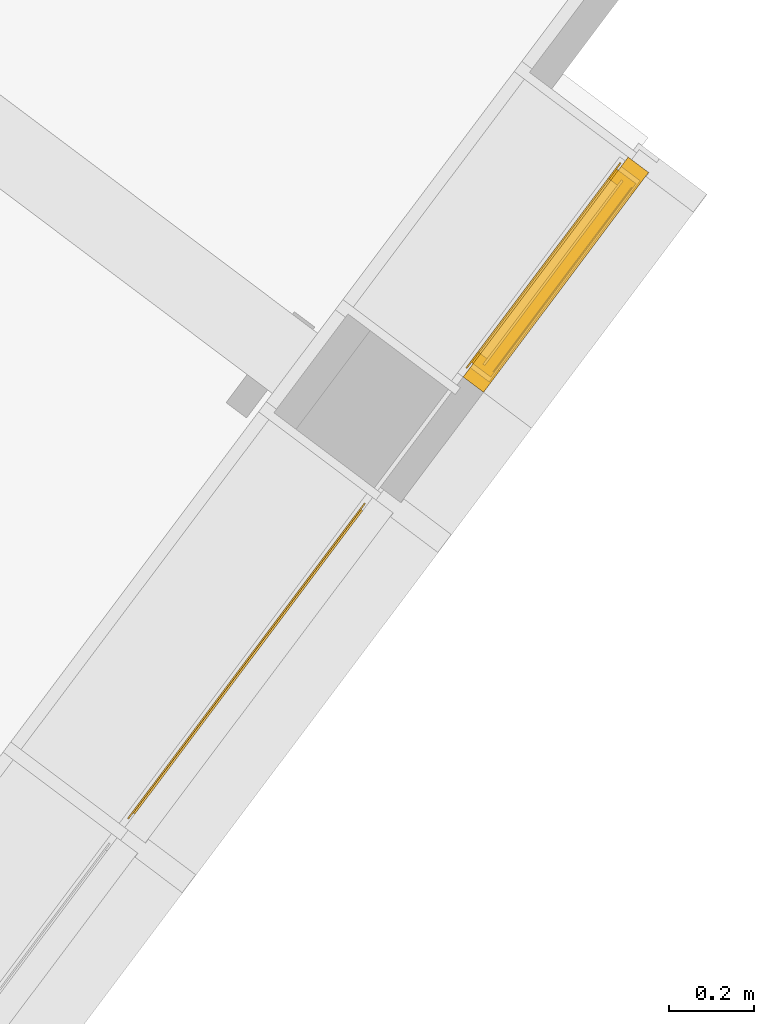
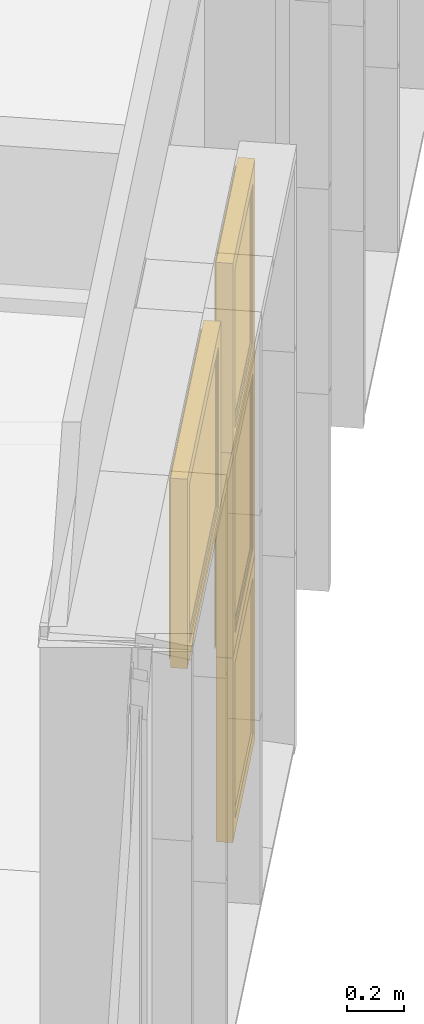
# One storey, part 182 of 243: 4 windows, 1 element without a shape of its own.
"""IFC2X3 building model written with IfcOpenShell, lengths in metres."""

from ifc_helpers import new_model, entity, si_unit, converted_unit, derived_unit, direction, frame, origin, place, context, subcontext, project, spatial, faceted_brep, source, transform, mapped, material, material_list, type_object, type_shapes, element, aggregate, save


model = new_model("IFC2X3")

# Units and contexts
model_context = context("Model", 3, precision=1e-05, world=origin(), true_north=direction((6.123031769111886e-17, 1.0)))
body_context = subcontext(model_context, "Body", "Model", "MODEL_VIEW")
ifc_project = project(units=[si_unit("LENGTHUNIT", "METRE"), si_unit("AREAUNIT", "SQUARE_METRE"), si_unit("VOLUMEUNIT", "CUBIC_METRE"), converted_unit("PLANEANGLEUNIT", "DEGREE", entity("IfcRatioMeasure", 0.017453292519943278), si_unit("PLANEANGLEUNIT", "RADIAN"), dimensions=[0, 0, 0, 0, 0, 0, 0]), si_unit("MASSUNIT", "GRAM", prefix="KILO"), derived_unit("MASSDENSITYUNIT", [(si_unit("MASSUNIT", "GRAM", prefix="KILO"), 1), (si_unit("LENGTHUNIT", "METRE"), -3)]), derived_unit("IONCONCENTRATIONUNIT", [(si_unit("MASSUNIT", "GRAM", prefix="KILO"), 1), (si_unit("LENGTHUNIT", "METRE"), -3)]), derived_unit("MOMENTOFINERTIAUNIT", [(si_unit("LENGTHUNIT", "METRE"), 4)]), si_unit("TIMEUNIT", "SECOND"), si_unit("FREQUENCYUNIT", "HERTZ"), si_unit("THERMODYNAMICTEMPERATUREUNIT", "DEGREE_CELSIUS"), derived_unit("THERMALTRANSMITTANCEUNIT", [(si_unit("MASSUNIT", "GRAM", prefix="KILO"), 1), (si_unit("THERMODYNAMICTEMPERATUREUNIT", "KELVIN"), -1), (si_unit("TIMEUNIT", "SECOND"), -3)]), derived_unit("THERMALCONDUCTANCEUNIT", [(si_unit("MASSUNIT", "GRAM", prefix="KILO"), 1), (si_unit("THERMODYNAMICTEMPERATUREUNIT", "KELVIN"), -1), (si_unit("TIMEUNIT", "SECOND"), -3), (si_unit("LENGTHUNIT", "METRE"), 1)]), derived_unit("VOLUMETRICFLOWRATEUNIT", [(si_unit("LENGTHUNIT", "METRE"), 3), (si_unit("TIMEUNIT", "SECOND"), -1)]), derived_unit("MASSFLOWRATEUNIT", [(si_unit("MASSUNIT", "GRAM", prefix="KILO"), 1), (si_unit("TIMEUNIT", "SECOND"), -1)]), derived_unit("ROTATIONALFREQUENCYUNIT", [(si_unit("TIMEUNIT", "SECOND"), -1)]), si_unit("ELECTRICCURRENTUNIT", "AMPERE"), si_unit("ELECTRICVOLTAGEUNIT", "VOLT"), si_unit("POWERUNIT", "WATT"), si_unit("FORCEUNIT", "NEWTON", prefix="KILO"), si_unit("ILLUMINANCEUNIT", "LUX"), si_unit("LUMINOUSFLUXUNIT", "LUMEN"), si_unit("LUMINOUSINTENSITYUNIT", "CANDELA"), derived_unit("USERDEFINED", [(si_unit("MASSUNIT", "GRAM", prefix="KILO"), -1), (si_unit("LENGTHUNIT", "METRE"), -2), (si_unit("TIMEUNIT", "SECOND"), 3), (si_unit("LUMINOUSFLUXUNIT", "LUMEN"), 1)]), derived_unit("USERDEFINED", [(si_unit("MASSUNIT", "GRAM", prefix="KILO"), 1), (si_unit("TIMEUNIT", "SECOND"), -3), (si_unit("LENGTHUNIT", "METRE"), 3), (si_unit("ELECTRICCURRENTUNIT", "AMPERE"), -2)]), derived_unit("SOUNDPOWERUNIT", [(si_unit("MASSUNIT", "GRAM", prefix="KILO"), 1), (si_unit("TIMEUNIT", "SECOND"), -3), (si_unit("LENGTHUNIT", "METRE"), 2)]), derived_unit("SOUNDPRESSUREUNIT", [(si_unit("MASSUNIT", "GRAM", prefix="KILO"), 1), (si_unit("LENGTHUNIT", "METRE"), -1), (si_unit("TIMEUNIT", "SECOND"), -2)]), derived_unit("LINEARVELOCITYUNIT", [(si_unit("LENGTHUNIT", "METRE"), 1), (si_unit("TIMEUNIT", "SECOND"), -1)]), si_unit("PRESSUREUNIT", "PASCAL"), derived_unit("USERDEFINED", [(si_unit("MASSUNIT", "GRAM", prefix="KILO"), 1), (si_unit("LENGTHUNIT", "METRE"), -2), (si_unit("TIMEUNIT", "SECOND"), -2)]), derived_unit("LINEARFORCEUNIT", [(si_unit("MASSUNIT", "GRAM", prefix="KILO"), 1), (si_unit("TIMEUNIT", "SECOND"), -2)]), derived_unit("PLANARFORCEUNIT", [(si_unit("MASSUNIT", "GRAM", prefix="KILO"), 1), (si_unit("LENGTHUNIT", "METRE"), -1), (si_unit("TIMEUNIT", "SECOND"), -2)]), derived_unit("SPECIFICHEATCAPACITYUNIT", [(si_unit("THERMODYNAMICTEMPERATUREUNIT", "KELVIN"), -1), (si_unit("LENGTHUNIT", "METRE"), 2), (si_unit("TIMEUNIT", "SECOND"), -2)]), derived_unit("HEATINGVALUEUNIT", [(si_unit("LENGTHUNIT", "METRE"), 2), (si_unit("TIMEUNIT", "SECOND"), -2)]), derived_unit("VAPORPERMEABILITYUNIT", [(si_unit("LENGTHUNIT", "METRE"), -1), (si_unit("TIMEUNIT", "SECOND"), 1)]), derived_unit("DYNAMICVISCOSITYUNIT", [(si_unit("MASSUNIT", "GRAM", prefix="KILO"), 1), (si_unit("TIMEUNIT", "SECOND"), -1), (si_unit("LENGTHUNIT", "METRE"), -1)]), derived_unit("THERMALEXPANSIONCOEFFICIENTUNIT", [(si_unit("THERMODYNAMICTEMPERATUREUNIT", "KELVIN"), -1)]), derived_unit("MODULUSOFELASTICITYUNIT", [(si_unit("MASSUNIT", "GRAM", prefix="KILO"), 1), (si_unit("LENGTHUNIT", "METRE"), -1), (si_unit("TIMEUNIT", "SECOND"), -2)]), derived_unit("ISOTHERMALMOISTURECAPACITYUNIT", [(si_unit("LENGTHUNIT", "METRE"), 3), (si_unit("MASSUNIT", "GRAM", prefix="KILO"), -1)]), derived_unit("MOISTUREDIFFUSIVITYUNIT", [(si_unit("TIMEUNIT", "SECOND"), -1), (si_unit("LENGTHUNIT", "METRE"), 2)])], contexts=[model_context])

# Site, building, storey
site_placement = place(None, frame((0.0, 0.0, 235.0), z_axis=(0.0, 0.0, 1.0), x_axis=(-0.7996477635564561, 0.6004693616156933, 0.0)))
site = spatial("IfcSite", under=ifc_project, at=site_placement, Name="Default", CompositionType="ELEMENT")
building_placement = place(site_placement, origin())
building = spatial("IfcBuilding", under=site, at=building_placement, CompositionType="ELEMENT")
storey_placement = place(building_placement, origin())
storey = spatial("IfcBuildingStorey", under=building, at=storey_placement, Name="P0- Escola", CompositionType="ELEMENT", Elevation=0.0)

# Curtain wall, windows
curtain_wall_type = type_object("IfcCurtainWallType", Name="Muro cortina:MC- EXT- MC2", PredefinedType="NOTDEFINED")
curtain_wall_placement = place(storey_placement, origin())
curtain_wall = element("IfcCurtainWall", 1, at=curtain_wall_placement, inside=storey, type_object=curtain_wall_type, Name="Muro cortina:MC- EXT- MC2", ObjectType="Muro cortina:MC- EXT- MC2")
ifc_material_1 = material(Name="_Vidre")
ifc_material_2 = material(Name="_Alumini- T1- Perfil")
ifc_material_list = material_list([ifc_material_1, ifc_material_2])
window_style_1 = type_object("IfcWindowStyle", Name="MC- Alu- Conjunt vidre fix- 62x60 cm:MC- Alu- Conjunt vidre fix- 62x60 cm", ConstructionType="NOTDEFINED", OperationType="NOTDEFINED", ParameterTakesPrecedence=False, Sizeable=False, material=ifc_material_list)
shared_shape_1 = source(origin(), body_context, "Body", "Brep", [
    faceted_brep([(0.2741301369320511, -0.007600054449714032, 0.048806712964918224), (0.2741301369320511, -0.03160022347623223, 0.048806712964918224), (-0.27413013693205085, -0.03160022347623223, 0.048806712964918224), (-0.27413013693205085, -0.007600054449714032, 0.048806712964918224), (0.2741301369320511, -0.007600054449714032, 0.7387000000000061), (-0.27413013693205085, -0.007600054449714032, 0.7387000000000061), (-0.27413013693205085, -0.03160022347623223, 0.7387000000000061), (0.2741301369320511, -0.03160022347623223, 0.7387000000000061)], [[[0, 1, 2, 3]], [[4, 0, 3, 5]], [[5, 3, 2, 6]], [[6, 2, 1, 7]], [[7, 1, 0, 4]], [[4, 5, 6, 7]]]),
    faceted_brep([(0.3229368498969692, -0.05999999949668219, 0.7877000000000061), (0.3229368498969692, -0.05999999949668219, 0.0), (0.3229368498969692, 0.0, 0.0), (0.3229368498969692, 0.0, 0.7877000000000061), (-0.3229368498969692, 0.0, 0.7877000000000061), (-0.3229368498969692, 0.0, 0.0), (0.260130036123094, 0.0, 0.724893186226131), (-0.260130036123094, 0.0, 0.7248931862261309), (-0.2601300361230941, 0.0, 0.06280681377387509), (0.260130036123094, 0.0, 0.06280681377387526), (-0.3229368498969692, -0.05999999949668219, 0.0), (-0.3229368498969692, -0.05999999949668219, 0.7877000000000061), (-0.2601328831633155, -0.05999999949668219, 0.7248960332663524), (0.2601328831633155, -0.05999999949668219, 0.7248960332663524), (0.2601328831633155, -0.05999999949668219, 0.0628039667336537), (-0.2601328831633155, -0.05999999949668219, 0.0628039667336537), (0.2601328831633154, -0.03160022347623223, 0.7248960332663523), (0.2601328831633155, -0.03160022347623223, 0.0628039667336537), (-0.2601328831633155, -0.03160022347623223, 0.06280396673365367), (-0.2601328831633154, -0.03160022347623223, 0.7248960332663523), (-0.274130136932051, -0.03160022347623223, 0.7388932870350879), (0.274130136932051, -0.03160022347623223, 0.7388932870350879), (0.274130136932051, -0.03160022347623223, 0.048806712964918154), (-0.274130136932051, -0.03160022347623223, 0.04880671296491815), (0.274130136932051, -0.007600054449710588, 0.7388932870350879), (0.274130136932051, -0.007600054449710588, 0.04880671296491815), (-0.274130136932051, -0.007600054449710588, 0.048806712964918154), (-0.274130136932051, -0.007600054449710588, 0.7388932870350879), (-0.26013003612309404, -0.007600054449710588, 0.724893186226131), (0.26013003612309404, -0.007600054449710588, 0.724893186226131), (0.26013003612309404, -0.007600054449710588, 0.06280681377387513), (-0.26013003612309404, -0.007600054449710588, 0.06280681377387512)], [[[0, 1, 2, 3]], [[4, 3, 2, 5], [6, 7, 8, 9]], [[1, 10, 5, 2]], [[0, 11, 10, 1], [12, 13, 14, 15]], [[16, 17, 14, 13]], [[17, 18, 15, 14]], [[16, 19, 18, 17], [20, 21, 22, 23]], [[24, 25, 22, 21]], [[25, 26, 23, 22]], [[24, 27, 26, 25], [28, 29, 30, 31]], [[6, 9, 30, 29]], [[9, 8, 31, 30]], [[10, 11, 4, 5]], [[18, 19, 12, 15]], [[26, 27, 20, 23]], [[8, 7, 28, 31]], [[11, 0, 3, 4]], [[19, 16, 13, 12]], [[27, 24, 21, 20]], [[7, 6, 29, 28]]], outer=[[True], [True, False], [True], [True, False], [True], [True], [False, True], [True], [True], [True, False], [True], [True], [True], [True], [True], [True], [True], [True], [True], [True]]),
])
type_shapes(window_style_1, [shared_shape_1])
window_1_placement = place(curtain_wall_placement, frame((66.44514768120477, -24.07725490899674, 0.03229999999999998), z_axis=(0.0, 0.0, 1.0), x_axis=(0.0, 1.0, 0.0)))
window_1 = element("IfcWindow", 2, at=window_1_placement, type_object=window_style_1, material=ifc_material_list, Name="MC- Alu- Conjunt vidre fix- 62x60 cm:MC- Alu- Conjunt vidre fix- 62x60 cm", ObjectType="MC- Alu- Conjunt vidre fix- 62x60 cm:MC- Alu- Conjunt vidre fix- 62x60 cm", OverallHeight=0.7877000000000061, OverallWidth=0.6458736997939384, context=body_context, shape_type="MappedRepresentation", body=[
    mapped(shared_shape_1, transform((0.0, 0.0, 0.0), scale=1.0)),
])
window_style_2 = type_object("IfcWindowStyle", Name="MC- Alu- Conjunt finestra basculant- 68x68 cm:MC- Alu- Conjunt finestra basculant- 68x68 cm", ConstructionType="NOTDEFINED", OperationType="NOTDEFINED", ParameterTakesPrecedence=False, Sizeable=False, material=ifc_material_list)
shared_shape_2 = source(origin(), body_context, "Body", "Brep", [
    faceted_brep([(0.2708485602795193, -0.03559830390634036, 0.051999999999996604), (-0.27084856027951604, -0.03559830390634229, 0.051999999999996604), (-0.2708485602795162, -0.011598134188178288, 0.051999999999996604), (0.27084856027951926, -0.011598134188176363, 0.051999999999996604), (0.2708485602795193, -0.03559830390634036, 0.82280278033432), (0.27084856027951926, -0.011598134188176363, 0.82280278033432), (-0.27084856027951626, -0.011598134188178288, 0.82280278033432), (-0.27084856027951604, -0.03559830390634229, 0.82280278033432)], [[[0, 1, 2, 3]], [[4, 0, 3, 5]], [[5, 3, 2, 6]], [[6, 2, 1, 7]], [[7, 1, 0, 4]], [[4, 5, 6, 7]]]),
    faceted_brep([(-0.2551477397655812, -0.009998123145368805, 0.8071019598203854), (-0.2551477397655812, -0.009998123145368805, 0.06789804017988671), (-0.2551477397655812, -0.007998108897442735, 0.06789804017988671), (-0.2551477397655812, -0.007998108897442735, 0.8071019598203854), (-0.284045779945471, -0.007998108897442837, 0.8360000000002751), (0.28404577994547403, -0.007998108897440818, 0.8360000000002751), (0.2840457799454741, -0.007998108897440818, 0.038999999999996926), (-0.284045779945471, -0.007998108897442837, 0.03899999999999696), (0.25514773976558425, -0.007998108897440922, 0.8071019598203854), (0.25514773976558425, -0.007998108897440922, 0.06789804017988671), (0.25514773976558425, -0.009998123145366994, 0.06789804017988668), (0.25514773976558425, -0.009998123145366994, 0.8071019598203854), (0.2708485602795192, -0.009998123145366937, 0.8228027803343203), (-0.27084856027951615, -0.00999812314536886, 0.8228027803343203), (-0.27084856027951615, -0.00999812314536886, 0.05219721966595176), (0.2708485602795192, -0.009998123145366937, 0.052197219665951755), (-0.27084856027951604, -0.04079986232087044, 0.8228027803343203), (-0.27084856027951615, -0.04079986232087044, 0.052197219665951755), (0.27084856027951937, -0.04079986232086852, 0.05219721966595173), (0.27084856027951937, -0.04079986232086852, 0.8228027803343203), (0.25514773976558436, -0.040799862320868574, 0.8071019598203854), (-0.2551477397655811, -0.040799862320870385, 0.8071019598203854), (-0.2551477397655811, -0.040799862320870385, 0.06789804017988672), (0.25514773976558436, -0.040799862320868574, 0.06789804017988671), (-0.255147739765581, -0.06800005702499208, 0.8071019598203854), (-0.255147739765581, -0.06800005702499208, 0.06789804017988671), (0.2551477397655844, -0.06800005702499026, 0.06789804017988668), (0.25514773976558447, -0.06800005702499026, 0.8071019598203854), (0.3015497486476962, -0.0680000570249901, 0.853503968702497), (-0.3015497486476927, -0.06800005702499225, 0.853503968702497), (-0.3015497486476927, -0.06800005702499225, 0.021496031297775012), (0.3015497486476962, -0.0680000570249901, 0.021496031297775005), (-0.3015497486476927, -0.06450003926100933, 0.853503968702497), (-0.3015497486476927, -0.06450003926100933, 0.021496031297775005), (0.3015497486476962, -0.0645000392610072, 0.021496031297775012), (0.3015497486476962, -0.06450003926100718, 0.853503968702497), (0.2840457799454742, -0.06450003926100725, 0.8360000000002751), (-0.28404577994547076, -0.06450003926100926, 0.8360000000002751), (-0.28404577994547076, -0.06450003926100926, 0.03899999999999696), (0.2840457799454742, -0.06450003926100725, 0.038999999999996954)], [[[0, 1, 2, 3]], [[4, 5, 6, 7], [8, 3, 2, 9]], [[1, 10, 9, 2]], [[0, 11, 10, 1], [12, 13, 14, 15]], [[16, 17, 14, 13]], [[17, 18, 15, 14]], [[16, 19, 18, 17], [20, 21, 22, 23]], [[24, 25, 22, 21]], [[25, 26, 23, 22]], [[24, 27, 26, 25], [28, 29, 30, 31]], [[32, 33, 30, 29]], [[33, 34, 31, 30]], [[32, 35, 34, 33], [36, 37, 38, 39]], [[4, 7, 38, 37]], [[7, 6, 39, 38]], [[10, 11, 8, 9]], [[18, 19, 12, 15]], [[26, 27, 20, 23]], [[34, 35, 28, 31]], [[6, 5, 36, 39]], [[11, 0, 3, 8]], [[19, 16, 13, 12]], [[27, 24, 21, 20]], [[35, 32, 29, 28]], [[5, 4, 37, 36]]], outer=[[True], [True, False], [True], [False, True], [True], [True], [True, False], [True], [True], [False, True], [True], [True], [True, False], [True], [True], [True], [True], [True], [True], [True], [True], [True], [True], [True], [True]]),
    faceted_brep([(0.26013003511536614, 0.0, 0.8121931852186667), (0.26013003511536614, 0.0, 0.06280681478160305), (0.26013003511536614, -0.0040000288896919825, 0.06280681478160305), (0.26013003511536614, -0.0040000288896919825, 0.8121931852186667), (-0.26013003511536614, -0.0040000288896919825, 0.8121931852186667), (-0.26013003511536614, -0.0040000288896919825, 0.06280681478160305), (0.295536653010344, -0.0040000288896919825, 0.8475998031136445), (-0.295536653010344, -0.0040000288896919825, 0.8475998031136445), (-0.295536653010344, -0.0040000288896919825, 0.027400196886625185), (0.295536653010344, -0.0040000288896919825, 0.02740019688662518), (-0.26013003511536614, 0.0, 0.06280681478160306), (-0.26013003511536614, 0.0, 0.8121931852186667), (-0.322936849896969, 0.0, 0.8750000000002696), (0.322936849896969, 0.0, 0.8750000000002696), (0.322936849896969, 0.0, 0.0), (-0.322936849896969, 0.0, 0.0), (0.322936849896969, -0.05999999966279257, 0.8750000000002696), (0.322936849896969, -0.05999999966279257, 0.0), (-0.322936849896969, -0.05999999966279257, 0.0), (-0.322936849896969, -0.05999999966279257, 0.8750000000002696), (-0.295536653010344, -0.05999999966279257, 0.8475998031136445), (0.295536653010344, -0.05999999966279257, 0.8475998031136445), (0.295536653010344, -0.05999999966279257, 0.027400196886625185), (-0.295536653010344, -0.05999999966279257, 0.02740019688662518)], [[[0, 1, 2, 3]], [[4, 3, 2, 5], [6, 7, 8, 9]], [[1, 10, 5, 2]], [[0, 11, 10, 1], [12, 13, 14, 15]], [[16, 17, 14, 13]], [[17, 18, 15, 14]], [[16, 19, 18, 17], [20, 21, 22, 23]], [[6, 9, 22, 21]], [[9, 8, 23, 22]], [[10, 11, 4, 5]], [[18, 19, 12, 15]], [[8, 7, 20, 23]], [[11, 0, 3, 4]], [[19, 16, 13, 12]], [[7, 6, 21, 20]]], outer=[[True], [False, True], [True], [False, True], [True], [True], [True, False], [True], [True], [True], [True], [True], [True], [True], [True]]),
])
type_shapes(window_style_2, [shared_shape_2])
window_2_placement = place(curtain_wall_placement, frame((66.44514768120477, -24.07725490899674, 0.8200000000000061), z_axis=(0.0, 0.0, 1.0), x_axis=(0.0, 1.0, 0.0)))
window_2 = element("IfcWindow", 3, at=window_2_placement, type_object=window_style_2, material=ifc_material_list, Name="MC- Alu- Conjunt finestra basculant- 68x68 cm:MC- Alu- Conjunt finestra basculant- 68x68 cm", ObjectType="MC- Alu- Conjunt finestra basculant- 68x68 cm:MC- Alu- Conjunt finestra basculant- 68x68 cm", OverallHeight=0.8750000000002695, OverallWidth=0.6458736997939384, context=body_context, shape_type="MappedRepresentation", body=[
    mapped(shared_shape_2, transform((0.0, 0.0, 0.0), scale=1.0)),
])
window_style_3 = type_object("IfcWindowStyle", Name="MC- Alu- Conjunt finestra basculant- 68x68 cm:MC- Alu- Conjunt finestra basculant- 68x68 cm", ConstructionType="NOTDEFINED", OperationType="NOTDEFINED", ParameterTakesPrecedence=False, Sizeable=False, material=ifc_material_list)
shared_shape_3 = source(origin(), body_context, "Body", "Brep", [
    faceted_brep([(0.432911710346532, -0.03559830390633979, 0.051999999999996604), (-0.43291171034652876, -0.03559830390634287, 0.051999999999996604), (-0.4329117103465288, -0.011598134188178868, 0.051999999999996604), (0.43291171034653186, -0.011598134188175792, 0.051999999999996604), (0.432911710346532, -0.035598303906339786, 0.7565527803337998), (0.43291171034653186, -0.011598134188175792, 0.7565527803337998), (-0.43291171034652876, -0.011598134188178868, 0.7565527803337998), (-0.43291171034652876, -0.03559830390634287, 0.7565527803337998)], [[[0, 1, 2, 3]], [[4, 0, 3, 5]], [[5, 3, 2, 6]], [[6, 2, 1, 7]], [[7, 1, 0, 4]], [[4, 5, 6, 7]]]),
    faceted_brep([(-0.41721088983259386, -0.009998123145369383, 0.7408519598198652), (-0.41721088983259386, -0.00999812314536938, 0.06789804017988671), (-0.41721088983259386, -0.007998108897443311, 0.06789804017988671), (-0.41721088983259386, -0.007998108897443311, 0.7408519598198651), (-0.4461089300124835, -0.007998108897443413, 0.7697499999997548), (0.44610893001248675, -0.007998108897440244, 0.7697499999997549), (0.4461089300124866, -0.007998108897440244, 0.03899999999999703), (-0.44610893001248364, -0.007998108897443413, 0.03899999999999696), (0.41721088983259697, -0.007998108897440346, 0.7408519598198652), (0.41721088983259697, -0.007998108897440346, 0.06789804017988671), (0.41721088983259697, -0.009998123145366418, 0.06789804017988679), (0.41721088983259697, -0.009998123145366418, 0.7408519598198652), (0.4329117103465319, -0.00999812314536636, 0.7565527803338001), (-0.4329117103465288, -0.009998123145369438, 0.7565527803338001), (-0.4329117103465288, -0.009998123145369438, 0.05219721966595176), (0.4329117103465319, -0.00999812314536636, 0.052197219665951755), (-0.4329117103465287, -0.04079986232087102, 0.7565527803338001), (-0.4329117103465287, -0.04079986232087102, 0.052197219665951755), (0.4329117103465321, -0.04079986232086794, 0.05219721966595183), (0.4329117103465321, -0.04079986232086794, 0.7565527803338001), (0.41721088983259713, -0.040799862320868, 0.7408519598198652), (-0.41721088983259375, -0.04079986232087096, 0.7408519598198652), (-0.41721088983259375, -0.04079986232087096, 0.06789804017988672), (0.41721088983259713, -0.040799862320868, 0.06789804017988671), (-0.4172108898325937, -0.06800005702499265, 0.7408519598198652), (-0.4172108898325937, -0.06800005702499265, 0.06789804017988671), (0.41721088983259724, -0.0680000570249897, 0.06789804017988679), (0.4172108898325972, -0.0680000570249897, 0.7408519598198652), (0.4636128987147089, -0.06800005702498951, 0.7872539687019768), (-0.46361289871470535, -0.06800005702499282, 0.7872539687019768), (-0.46361289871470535, -0.06800005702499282, 0.021496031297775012), (0.4636128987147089, -0.06800005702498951, 0.021496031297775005), (-0.46361289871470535, -0.0645000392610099, 0.7872539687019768), (-0.46361289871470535, -0.06450003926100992, 0.021496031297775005), (0.4636128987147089, -0.06450003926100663, 0.02149603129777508), (0.4636128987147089, -0.06450003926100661, 0.7872539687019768), (0.4461089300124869, -0.06450003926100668, 0.7697499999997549), (-0.4461089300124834, -0.06450003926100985, 0.7697499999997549), (-0.4461089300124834, -0.06450003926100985, 0.03899999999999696), (0.4461089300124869, -0.06450003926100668, 0.038999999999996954)], [[[0, 1, 2, 3]], [[4, 5, 6, 7], [8, 3, 2, 9]], [[1, 10, 9, 2]], [[0, 11, 10, 1], [12, 13, 14, 15]], [[16, 17, 14, 13]], [[17, 18, 15, 14]], [[16, 19, 18, 17], [20, 21, 22, 23]], [[24, 25, 22, 21]], [[25, 26, 23, 22]], [[24, 27, 26, 25], [28, 29, 30, 31]], [[32, 33, 30, 29]], [[33, 34, 31, 30]], [[32, 35, 34, 33], [36, 37, 38, 39]], [[4, 7, 38, 37]], [[7, 6, 39, 38]], [[10, 11, 8, 9]], [[18, 19, 12, 15]], [[26, 27, 20, 23]], [[34, 35, 28, 31]], [[6, 5, 36, 39]], [[11, 0, 3, 8]], [[19, 16, 13, 12]], [[27, 24, 21, 20]], [[35, 32, 29, 28]], [[5, 4, 37, 36]]], outer=[[True], [True, False], [True], [False, True], [True], [True], [True, False], [True], [True], [False, True], [True], [True], [True, False], [True], [True], [True], [True], [True], [True], [True], [True], [True], [True], [True], [True]]),
    faceted_brep([(0.4221931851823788, 0.0, 0.7459431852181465), (0.4221931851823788, 0.0, 0.06280681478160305), (0.4221931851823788, -0.0040000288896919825, 0.06280681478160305), (0.4221931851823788, -0.0040000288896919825, 0.7459431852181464), (-0.4221931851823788, -0.0040000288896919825, 0.7459431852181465), (-0.4221931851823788, -0.0040000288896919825, 0.06280681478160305), (0.4575998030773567, -0.0040000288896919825, 0.7813498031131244), (-0.4575998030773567, -0.0040000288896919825, 0.7813498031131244), (-0.4575998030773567, -0.0040000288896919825, 0.027400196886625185), (0.4575998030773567, -0.0040000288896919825, 0.02740019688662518), (-0.4221931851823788, 0.0, 0.06280681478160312), (-0.4221931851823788, 0.0, 0.7459431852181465), (-0.48499999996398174, 0.0, 0.8087499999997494), (0.48499999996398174, 0.0, 0.8087499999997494), (0.48499999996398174, 0.0, 0.0), (-0.48499999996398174, 0.0, 0.0), (0.48499999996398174, -0.05999999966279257, 0.8087499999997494), (0.48499999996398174, -0.05999999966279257, 0.0), (-0.48499999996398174, -0.05999999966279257, 0.0), (-0.48499999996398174, -0.05999999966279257, 0.8087499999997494), (-0.4575998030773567, -0.05999999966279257, 0.7813498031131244), (0.4575998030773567, -0.05999999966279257, 0.7813498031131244), (0.4575998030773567, -0.05999999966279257, 0.027400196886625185), (-0.4575998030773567, -0.05999999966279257, 0.02740019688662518)], [[[0, 1, 2, 3]], [[4, 3, 2, 5], [6, 7, 8, 9]], [[1, 10, 5, 2]], [[0, 11, 10, 1], [12, 13, 14, 15]], [[16, 17, 14, 13]], [[17, 18, 15, 14]], [[16, 19, 18, 17], [20, 21, 22, 23]], [[6, 9, 22, 21]], [[9, 8, 23, 22]], [[10, 11, 4, 5]], [[18, 19, 12, 15]], [[8, 7, 20, 23]], [[11, 0, 3, 4]], [[19, 16, 13, 12]], [[7, 6, 21, 20]]], outer=[[True], [False, True], [True], [False, True], [True], [True], [True, False], [True], [True], [True], [True], [True], [True], [True], [True]]),
])
type_shapes(window_style_3, [shared_shape_3])
window_3_placement = place(curtain_wall_placement, frame((66.44514768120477, -22.915191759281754, 1.6950000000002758), z_axis=(0.0, 0.0, 1.0), x_axis=(0.0, 1.0, 0.0)))
window_3 = element("IfcWindow", 4, at=window_3_placement, type_object=window_style_3, material=ifc_material_list, Name="MC- Alu- Conjunt finestra basculant- 68x68 cm:MC- Alu- Conjunt finestra basculant- 68x68 cm", ObjectType="MC- Alu- Conjunt finestra basculant- 68x68 cm:MC- Alu- Conjunt finestra basculant- 68x68 cm", OverallHeight=0.8087499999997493, OverallWidth=0.9699999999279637, context=body_context, shape_type="MappedRepresentation", body=[
    mapped(shared_shape_3, transform((0.0, 0.0, 0.0), scale=1.0)),
])
window_style_4 = type_object("IfcWindowStyle", Name="MC- Alu- Conjunt finestra basculant- 68x68 cm:MC- Alu- Conjunt finestra basculant- 68x68 cm", ConstructionType="NOTDEFINED", OperationType="NOTDEFINED", ParameterTakesPrecedence=False, Sizeable=False, material=ifc_material_list)
shared_shape_4 = source(origin(), body_context, "Body", "Brep", [
    faceted_brep([(0.2708485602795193, -0.03559830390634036, 0.051999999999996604), (-0.27084856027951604, -0.03559830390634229, 0.051999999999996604), (-0.27084856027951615, -0.011598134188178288, 0.051999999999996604), (0.27084856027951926, -0.011598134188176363, 0.051999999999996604), (0.2708485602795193, -0.03559830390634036, 0.7565527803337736), (0.27084856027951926, -0.011598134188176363, 0.7565527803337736), (-0.27084856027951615, -0.011598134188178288, 0.7565527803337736), (-0.27084856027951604, -0.03559830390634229, 0.7565527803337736)], [[[0, 1, 2, 3]], [[4, 0, 3, 5]], [[5, 3, 2, 6]], [[6, 2, 1, 7]], [[7, 1, 0, 4]], [[4, 5, 6, 7]]]),
    faceted_brep([(-0.2551477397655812, -0.009998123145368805, 0.7408519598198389), (-0.2551477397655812, -0.009998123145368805, 0.06789804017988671), (-0.2551477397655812, -0.007998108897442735, 0.06789804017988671), (-0.2551477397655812, -0.007998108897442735, 0.7408519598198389), (-0.284045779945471, -0.007998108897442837, 0.7697499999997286), (0.28404577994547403, -0.007998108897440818, 0.7697499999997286), (0.2840457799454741, -0.007998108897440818, 0.038999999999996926), (-0.284045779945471, -0.007998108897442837, 0.03899999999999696), (0.25514773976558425, -0.007998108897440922, 0.7408519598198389), (0.25514773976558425, -0.007998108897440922, 0.06789804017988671), (0.25514773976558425, -0.009998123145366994, 0.06789804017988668), (0.25514773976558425, -0.009998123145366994, 0.7408519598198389), (0.2708485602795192, -0.009998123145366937, 0.7565527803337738), (-0.27084856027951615, -0.00999812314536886, 0.7565527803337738), (-0.27084856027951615, -0.00999812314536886, 0.05219721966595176), (0.2708485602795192, -0.009998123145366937, 0.052197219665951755), (-0.27084856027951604, -0.04079986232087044, 0.7565527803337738), (-0.27084856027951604, -0.04079986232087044, 0.052197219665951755), (0.27084856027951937, -0.04079986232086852, 0.05219721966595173), (0.2708485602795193, -0.04079986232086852, 0.7565527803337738), (0.25514773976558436, -0.040799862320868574, 0.7408519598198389), (-0.2551477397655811, -0.040799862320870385, 0.7408519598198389), (-0.2551477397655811, -0.040799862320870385, 0.06789804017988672), (0.25514773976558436, -0.040799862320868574, 0.06789804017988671), (-0.255147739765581, -0.06800005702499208, 0.7408519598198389), (-0.255147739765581, -0.06800005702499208, 0.06789804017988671), (0.2551477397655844, -0.06800005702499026, 0.06789804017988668), (0.25514773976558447, -0.06800005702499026, 0.7408519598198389), (0.3015497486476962, -0.0680000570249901, 0.7872539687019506), (-0.3015497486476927, -0.06800005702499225, 0.7872539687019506), (-0.3015497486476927, -0.06800005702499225, 0.021496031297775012), (0.3015497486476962, -0.0680000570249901, 0.021496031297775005), (-0.3015497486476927, -0.06450003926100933, 0.7872539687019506), (-0.3015497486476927, -0.06450003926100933, 0.021496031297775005), (0.3015497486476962, -0.0645000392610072, 0.021496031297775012), (0.3015497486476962, -0.06450003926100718, 0.7872539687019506), (0.2840457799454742, -0.06450003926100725, 0.7697499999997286), (-0.28404577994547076, -0.06450003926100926, 0.7697499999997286), (-0.28404577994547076, -0.06450003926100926, 0.03899999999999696), (0.2840457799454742, -0.06450003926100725, 0.038999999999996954)], [[[0, 1, 2, 3]], [[4, 5, 6, 7], [8, 3, 2, 9]], [[1, 10, 9, 2]], [[0, 11, 10, 1], [12, 13, 14, 15]], [[16, 17, 14, 13]], [[17, 18, 15, 14]], [[16, 19, 18, 17], [20, 21, 22, 23]], [[24, 25, 22, 21]], [[25, 26, 23, 22]], [[24, 27, 26, 25], [28, 29, 30, 31]], [[32, 33, 30, 29]], [[33, 34, 31, 30]], [[32, 35, 34, 33], [36, 37, 38, 39]], [[4, 7, 38, 37]], [[7, 6, 39, 38]], [[10, 11, 8, 9]], [[18, 19, 12, 15]], [[26, 27, 20, 23]], [[34, 35, 28, 31]], [[6, 5, 36, 39]], [[11, 0, 3, 8]], [[19, 16, 13, 12]], [[27, 24, 21, 20]], [[35, 32, 29, 28]], [[5, 4, 37, 36]]], outer=[[True], [True, False], [True], [False, True], [True], [True], [True, False], [True], [True], [False, True], [True], [True], [True, False], [True], [True], [True], [True], [True], [True], [True], [True], [True], [True], [True], [True]]),
    faceted_brep([(0.26013003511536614, 0.0, 0.7459431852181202), (0.2601300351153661, 0.0, 0.06280681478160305), (0.2601300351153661, -0.0040000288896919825, 0.06280681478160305), (0.26013003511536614, -0.0040000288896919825, 0.7459431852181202), (-0.26013003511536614, -0.0040000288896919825, 0.7459431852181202), (-0.26013003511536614, -0.0040000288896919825, 0.06280681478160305), (0.295536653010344, -0.0040000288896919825, 0.7813498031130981), (-0.29553665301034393, -0.0040000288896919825, 0.781349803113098), (-0.295536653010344, -0.0040000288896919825, 0.027400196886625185), (0.29553665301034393, -0.0040000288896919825, 0.027400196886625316), (-0.26013003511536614, 0.0, 0.06280681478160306), (-0.2601300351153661, 0.0, 0.7459431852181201), (-0.322936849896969, 0.0, 0.8087499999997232), (0.322936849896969, 0.0, 0.8087499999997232), (0.322936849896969, 0.0, 0.0), (-0.322936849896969, 0.0, 0.0), (0.322936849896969, -0.05999999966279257, 0.8087499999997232), (0.322936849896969, -0.05999999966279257, 0.0), (-0.322936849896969, -0.05999999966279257, 0.0), (-0.322936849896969, -0.05999999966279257, 0.8087499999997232), (-0.295536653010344, -0.05999999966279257, 0.7813498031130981), (0.295536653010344, -0.05999999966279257, 0.7813498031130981), (0.295536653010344, -0.05999999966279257, 0.027400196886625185), (-0.295536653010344, -0.05999999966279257, 0.02740019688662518)], [[[0, 1, 2, 3]], [[4, 3, 2, 5], [6, 7, 8, 9]], [[1, 10, 5, 2]], [[0, 11, 10, 1], [12, 13, 14, 15]], [[16, 17, 14, 13]], [[17, 18, 15, 14]], [[16, 19, 18, 17], [20, 21, 22, 23]], [[6, 9, 22, 21]], [[9, 8, 23, 22]], [[10, 11, 4, 5]], [[18, 19, 12, 15]], [[8, 7, 20, 23]], [[11, 0, 3, 4]], [[19, 16, 13, 12]], [[7, 6, 21, 20]]], outer=[[True], [False, True], [True], [False, True], [True], [True], [True, False], [True], [True], [True], [True], [True], [True], [True], [True]]),
])
type_shapes(window_style_4, [shared_shape_4])
window_4_placement = place(curtain_wall_placement, frame((66.44514768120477, -24.07725490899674, 1.6950000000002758), z_axis=(0.0, 0.0, 1.0), x_axis=(0.0, 1.0, 0.0)))
window_4 = element("IfcWindow", 5, at=window_4_placement, type_object=window_style_4, material=ifc_material_list, Name="MC- Alu- Conjunt finestra basculant- 68x68 cm:MC- Alu- Conjunt finestra basculant- 68x68 cm", ObjectType="MC- Alu- Conjunt finestra basculant- 68x68 cm:MC- Alu- Conjunt finestra basculant- 68x68 cm", OverallHeight=0.8087499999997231, OverallWidth=0.6458736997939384, context=body_context, shape_type="MappedRepresentation", body=[
    mapped(shared_shape_4, transform((0.0, 0.0, 0.0), scale=1.0)),
])
aggregate(curtain_wall, [window_1, window_2, window_3, window_4])

save(model, "model.ifc")
